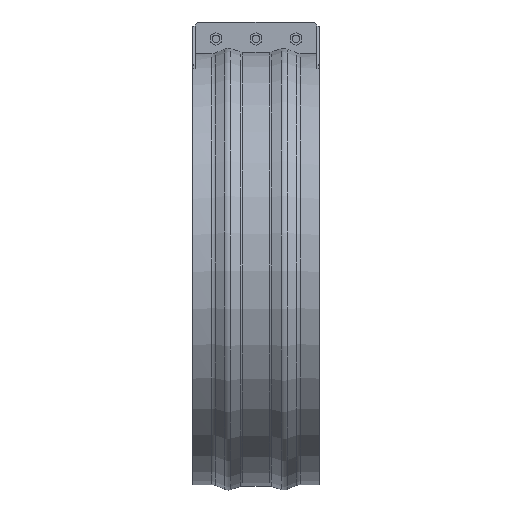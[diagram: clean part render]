
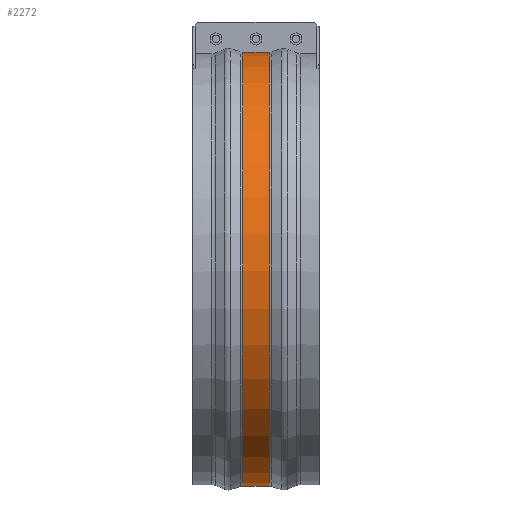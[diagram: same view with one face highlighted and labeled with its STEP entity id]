
A CAD part, front view. The second image highlights one B-rep face of the part: STEP entity #2272.
In plain terms, the highlighted cylindrical face has radius 543.227 mm (diameter 1086.45 mm), a partial arc.
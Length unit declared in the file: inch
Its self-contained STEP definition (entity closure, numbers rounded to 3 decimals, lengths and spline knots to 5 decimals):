
#262=FACE_OUTER_BOUND('',#391,.T.);
#391=EDGE_LOOP('',(#1876,#1877,#1878,#1879));
#594=LINE('',#3681,#789);
#601=LINE('',#3762,#796);
#789=VECTOR('',#2973,0.3937);
#796=VECTOR('',#2984,0.3937);
#852=CIRCLE('',#2453,21.38689);
#853=CIRCLE('',#2455,21.38689);
#1058=VERTEX_POINT('',#3673);
#1059=VERTEX_POINT('',#3680);
#1070=VERTEX_POINT('',#3754);
#1071=VERTEX_POINT('',#3761);
#1337=EDGE_CURVE('',#1059,#1058,#594,.T.);
#1352=EDGE_CURVE('',#1071,#1070,#601,.T.);
#1364=EDGE_CURVE('',#1059,#1070,#852,.T.);
#1365=EDGE_CURVE('',#1058,#1071,#853,.T.);
#1876=ORIENTED_EDGE('',*,*,#1337,.T.);
#1877=ORIENTED_EDGE('',*,*,#1365,.T.);
#1878=ORIENTED_EDGE('',*,*,#1352,.T.);
#1879=ORIENTED_EDGE('',*,*,#1364,.F.);
#2057=CYLINDRICAL_SURFACE('',#2454,21.38689);
#2272=ADVANCED_FACE('',(#262),#2057,.T.);
#2453=AXIS2_PLACEMENT_3D('',#3810,#3007,#3008);
#2454=AXIS2_PLACEMENT_3D('',#3811,#3009,#3010);
#2455=AXIS2_PLACEMENT_3D('',#3812,#3011,#3012);
#2973=DIRECTION('',(-1.,0.,0.));
#2984=DIRECTION('',(1.,0.,0.));
#3007=DIRECTION('center_axis',(1.,0.,0.));
#3008=DIRECTION('ref_axis',(0.,0.,-1.));
#3009=DIRECTION('center_axis',(1.,0.,0.));
#3010=DIRECTION('ref_axis',(0.,0.,
-1.));
#3011=DIRECTION('center_axis',(1.,0.,0.));
#3012=DIRECTION('ref_axis',(0.,0.,-1.));
#3673=CARTESIAN_POINT('',(-1.31451,-0.375,21.3836));
#3680=CARTESIAN_POINT('',(1.31451,-0.375,21.3836));
#3681=CARTESIAN_POINT('',(0.,-0.375,21.3836));
#3754=CARTESIAN_POINT('',(1.31451,0.375,21.3836));
#3761=CARTESIAN_POINT('',(-1.31451,0.375,21.3836));
#3762=CARTESIAN_POINT('',(0.,0.375,21.3836));
#3810=CARTESIAN_POINT('Origin',(1.31451,0.,0.));
#3811=CARTESIAN_POINT('Origin',(0.,0.,0.));
#3812=CARTESIAN_POINT('Origin',(-1.31451,0.,
0.));
